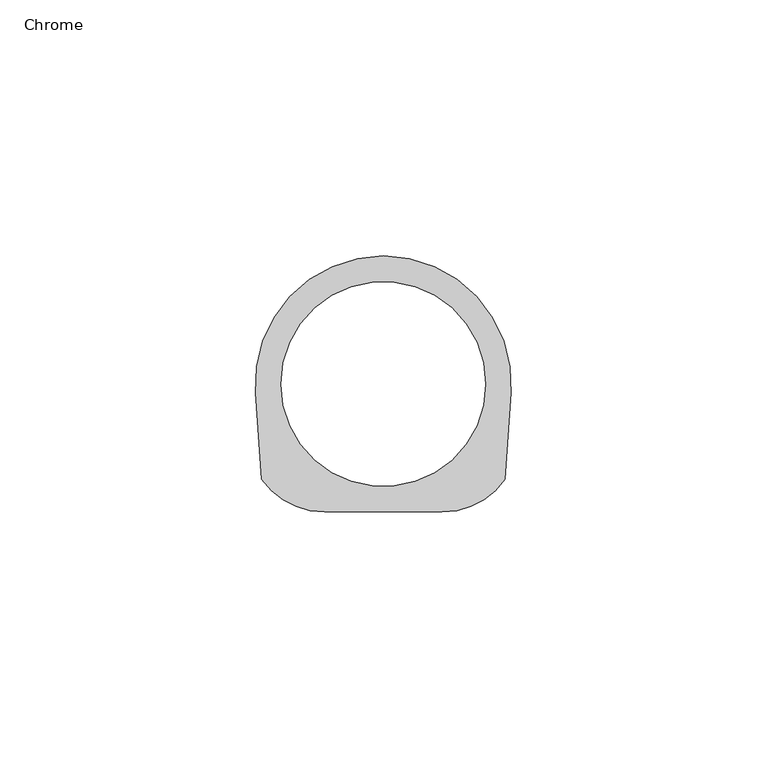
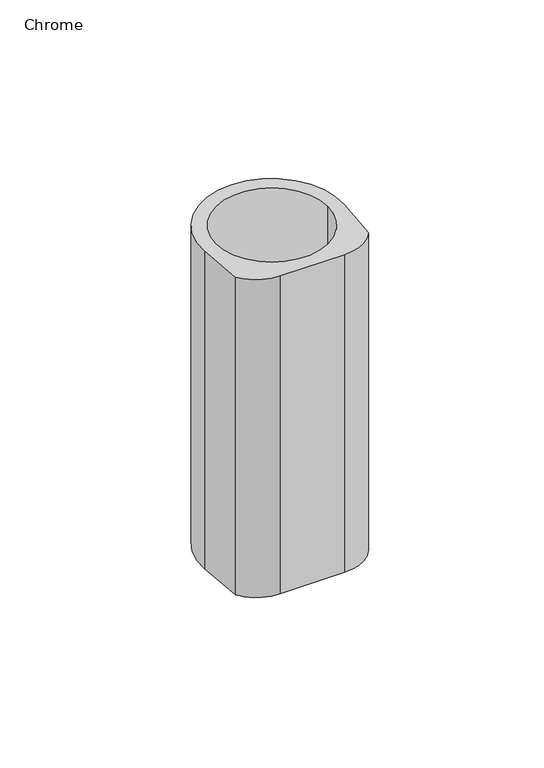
"""IFC4 building model written with IfcOpenShell, lengths in millimetres: flow terminal geometry, z_PlumFixt_Billi_120mm Riser : Chrome."""

from ifc_helpers import new_model, si_unit, frame, origin, place, context, project, spatial, polyline, circle_curve, source, transform, mapped, element, save
from ifc_brep_helpers import plane_surface, cylinder_surface, revolved_surface, advanced_brep


def chrome_7b1b1f62(model_context):
    return source(origin(), model_context, "Body", "AdvancedBrep", [
        advanced_brep(
        [(-22.7552944, -32.3991443, 120.0), (-10.4999952, -38.7499994, 120.0), (12.4999952, -38.75, 120.0), (24.7552944, -32.3991443, 120.0), (25.9391013, -15.4699176, 120.0), (-23.9391013, -15.4699176, 120.0), (21.0, -13.75, 120.0), (-19.0, -13.75, 120.0), (-22.7552944, -32.3991443, 0.0), (-23.9391013, -15.4699176, 0.0), (25.9391013, -15.4699176, 0.0), (24.7552944, -32.3991443, 0.0), (12.4999952, -38.7499994, 0.0), (-10.4999952, -38.75, 0.0), (21.0, -13.75, 0.0), (-19.0, -13.75, 0.0)],
        [
            (0, 1, circle_curve(frame((-10.4999952, -23.7499942, 120.0), z_axis=(0.0, 0.0, 1.0), x_axis=(-1.0, 0.0, 0.0)), 15.0000053)),
            (1, 2),
            (2, 3, circle_curve(frame((12.4999952, -23.7499942, 120.0), z_axis=(0.0, 0.0, 1.0), x_axis=(-1.0, 0.0, 0.0)), 15.0000053)),
            (3, 4),
            (4, 5, circle_curve(frame((1.0, -13.7260058, 120.0), z_axis=(0.0, 0.0, 1.0), x_axis=(-1.0, 0.0, 0.0)), 25.0)),
            (5, 0),
            (6, 7, circle_curve(frame((1.0, -13.75, 120.0), z_axis=(0.0, 0.0, -1.0), x_axis=(-1.0, 0.0, 0.0)), 20.0)),
            (7, 6, circle_curve(frame((1.0, -13.75, 120.0), z_axis=(0.0, 0.0, -1.0), x_axis=(-1.0, 0.0, 0.0)), 20.0)),
            (8, 9),
            (9, 10, circle_curve(frame((1.0, -13.7260058, 0.0), z_axis=(0.0, 0.0, -1.0), x_axis=(-1.0, 0.0, 0.0)), 25.0)),
            (10, 11),
            (11, 12, circle_curve(frame((12.4999952, -23.7499942, 0.0), z_axis=(0.0, 0.0, -1.0), x_axis=(-1.0, 0.0, 0.0)), 15.0000053)),
            (12, 13),
            (13, 8, circle_curve(frame((-10.4999952, -23.7499942, 0.0), z_axis=(0.0, 0.0, -1.0), x_axis=(-1.0, 0.0, 0.0)), 15.0000053)),
            (14, 15, circle_curve(frame((1.0, -13.75, 0.0), z_axis=(0.0, 0.0, 1.0), x_axis=(-1.0, 0.0, 0.0)), 20.0)),
            (15, 14, circle_curve(frame((1.0, -13.75, 0.0), z_axis=(0.0, 0.0, 1.0), x_axis=(-1.0, 0.0, 0.0)), 20.0)),
            (6, 14),
            (15, 7),
            (0, 8),
            (13, 1),
            (12, 2),
            (11, 3),
            (10, 4),
            (9, 5),
        ],
        [
            plane_surface(frame((-19.0, -13.75, 120.0), z_axis=(0.0, 0.0, 1.0), x_axis=(0.0, 1.0, 0.0))),
            plane_surface(frame((-19.0, -13.75, 0.0), z_axis=(0.0, 0.0, -1.0), x_axis=(0.0, -1.0, 0.0))),
            revolved_surface(polyline([(-19.0, -13.75, 0.0), (-19.0, -13.75, 120.0)]), (1.0, -13.75, 0.0), (0.0, 0.0, -1.0)),
            cylinder_surface(frame((-10.4999952, -23.7499942, 0.0), z_axis=(0.0, 0.0, 1.0), x_axis=(-1.0, 0.0, 0.0)), 15.0000053),
            plane_surface(frame((-10.4999952, -38.75, 120.0), z_axis=(0.0, -1.0, 0.0), x_axis=(0.0, 0.0, -1.0))),
            cylinder_surface(frame((12.4999952, -23.7499942, 0.0), z_axis=(0.0, 0.0, 1.0), x_axis=(-1.0, 0.0, 0.0)), 15.0000053),
            plane_surface(frame((24.7552944, -32.3991443, 120.0), z_axis=(0.9975640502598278, -0.06975647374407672, 0.0), x_axis=(0.0, 0.0, -1.0))),
            cylinder_surface(frame((1.0, -13.7260058, 0.0), z_axis=(0.0, 0.0, 1.0), x_axis=(-1.0, 0.0, 0.0)), 25.0),
            plane_surface(frame((-23.9391013, -15.4699176, 120.0), z_axis=(-0.9975640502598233, -0.06975647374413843, 0.0), x_axis=(0.0, 0.0, -1.0))),
        ],
        [
            (0, [[1, 2, 3, 4, 5, 6], [7, 8]]),
            (1, [[9, 10, 11, 12, 13, 14], [15, 16]]),
            (2, [[-7, 17, -16, 18]]),
            (2, [[-8, -18, -15, -17]]),
            (3, [[-1, 19, -14, 20]]),
            (4, [[-2, -20, -13, 21]]),
            (5, [[-3, -21, -12, 22]]),
            (6, [[-4, -22, -11, 23]]),
            (7, [[-5, -23, -10, 24]]),
            (8, [[-6, -24, -9, -19]]),
        ],
    ),
    ])


if __name__ == "__main__":
    model = new_model("IFC4")
    model_context = context("Model", 3, world=origin())
    ifc_project = project(units=[si_unit("LENGTHUNIT", "METRE", prefix="MILLI")], contexts=[model_context])
    site = spatial("IfcSite", under=ifc_project)
    building = spatial("IfcBuilding", under=site)
    placement = place(None, origin())
    chrome_shape = chrome_7b1b1f62(model_context)
    element("IfcFlowTerminal", 1, ObjectType="z_PlumFixt_Billi_120mm Riser : Chrome", at=placement, inside=building, context=model_context, shape_type="MappedRepresentation", body=[
        mapped(chrome_shape, transform((0.0, 0.0, 0.0), x_axis=(1.0, 0.0, 0.0), y_axis=(0.0, 1.0, 0.0), z_axis=(0.0, 0.0, 1.0))),
    ])
    save(model, "model.ifc")
